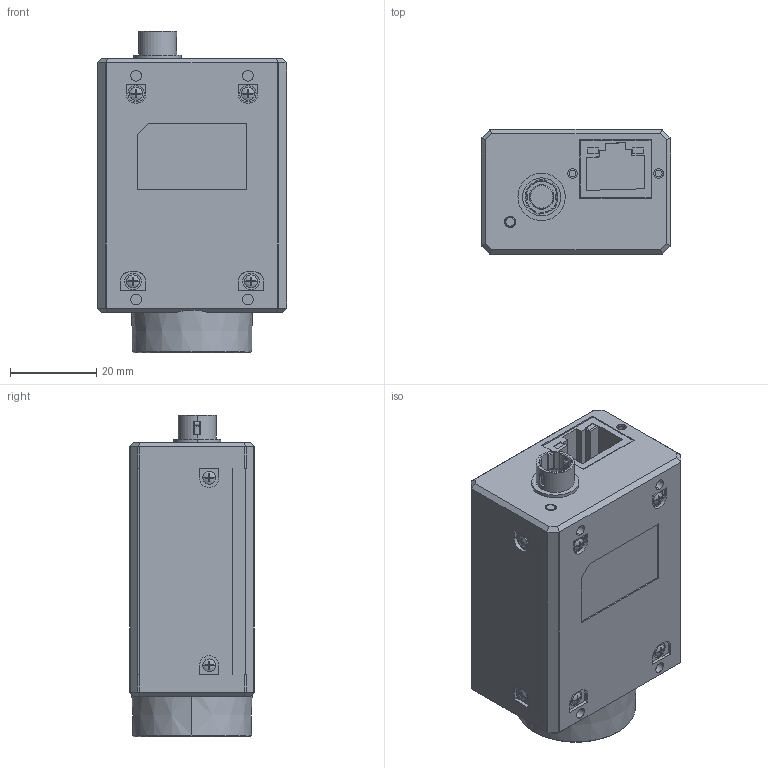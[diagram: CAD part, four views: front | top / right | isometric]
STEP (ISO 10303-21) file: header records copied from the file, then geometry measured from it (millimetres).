
FILE_DESCRIPTION((''),'2;1');
FILE_NAME('MV-CA017-10GM_ASM','2020-10-29T09:51:18',('sunli10'),(''),'CREO PARAMETRIC BY PTC INC, 2017260','CREO PARAMETRIC BY PTC INC, 2017260','');
FILE_SCHEMA(('CONFIG_CONTROL_DESIGN'));
Length unit declared in the file: millimetre
Products named in the file (3): MSBR-1; _MV-CA017-10GM; MV-CA017-10GM_ASM
Assembly tree (2 placements, depth 2):
  MV-CA017-10GM_ASM
    MSBR-1
    _MV-CA017-10GM
Bounding box: 44 x 29 x 74.65 mm (x, y, z)
Volume: 72805.9 mm3; surface area: 17965.8 mm2
Topology: 5 solids, 10 shells, 1082 faces, 2831 edges, 1801 vertices
Faces by surface type: plane 685, cylinder 292, cone 43, torus 33, sphere 24, bspline 5
Entity records: 34134 total; most frequent: CARTESIAN_POINT 7273, ORIENTED_EDGE 5662, DIRECTION 5523, EDGE_CURVE 2831, AXIS2_PLACEMENT_3D 1894, VERTEX_POINT 1801, VECTOR 1735, LINE 1735
